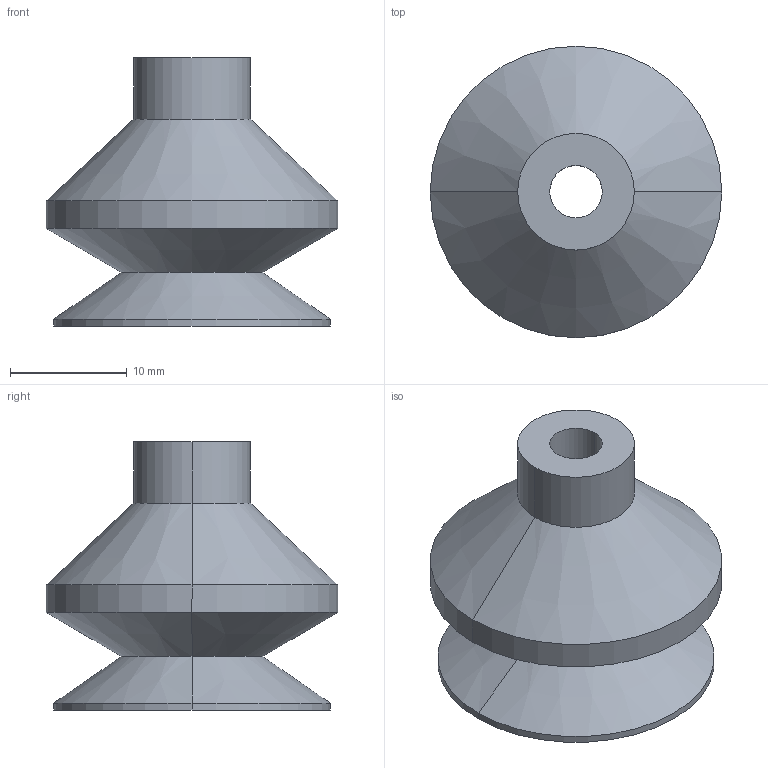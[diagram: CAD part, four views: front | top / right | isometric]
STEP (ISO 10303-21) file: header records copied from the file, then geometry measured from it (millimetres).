
FILE_DESCRIPTION (( 'STEP AP203' ), '1' );
FILE_NAME ('10.01.06.00872K_0_AA.STEP', '2024-10-15T04:39:24', ( 'Windows User' ), ( '' ), 'SwSTEP 2.0', 'SolidWorks 2021', '' );
FILE_SCHEMA (( 'CONFIG_CONTROL_DESIGN' ));
Length unit declared in the file: millimetre
Products named in the file (1): 10.01.06.00872K_0_AA
Bounding box: 25 x 25 x 23 mm (x, y, z)
Volume: 4028.1 mm3; surface area: 3146.8 mm2
Topology: 1 solids, 1 shells, 26 faces, 52 edges, 30 vertices
Faces by surface type: cylinder 12, cone 10, plane 4
Entity records: 755 total; most frequent: DIRECTION 136, CARTESIAN_POINT 109, ORIENTED_EDGE 104, AXIS2_PLACEMENT_3D 57, EDGE_CURVE 52, EDGE_LOOP 30, VERTEX_POINT 30, CIRCLE 30
